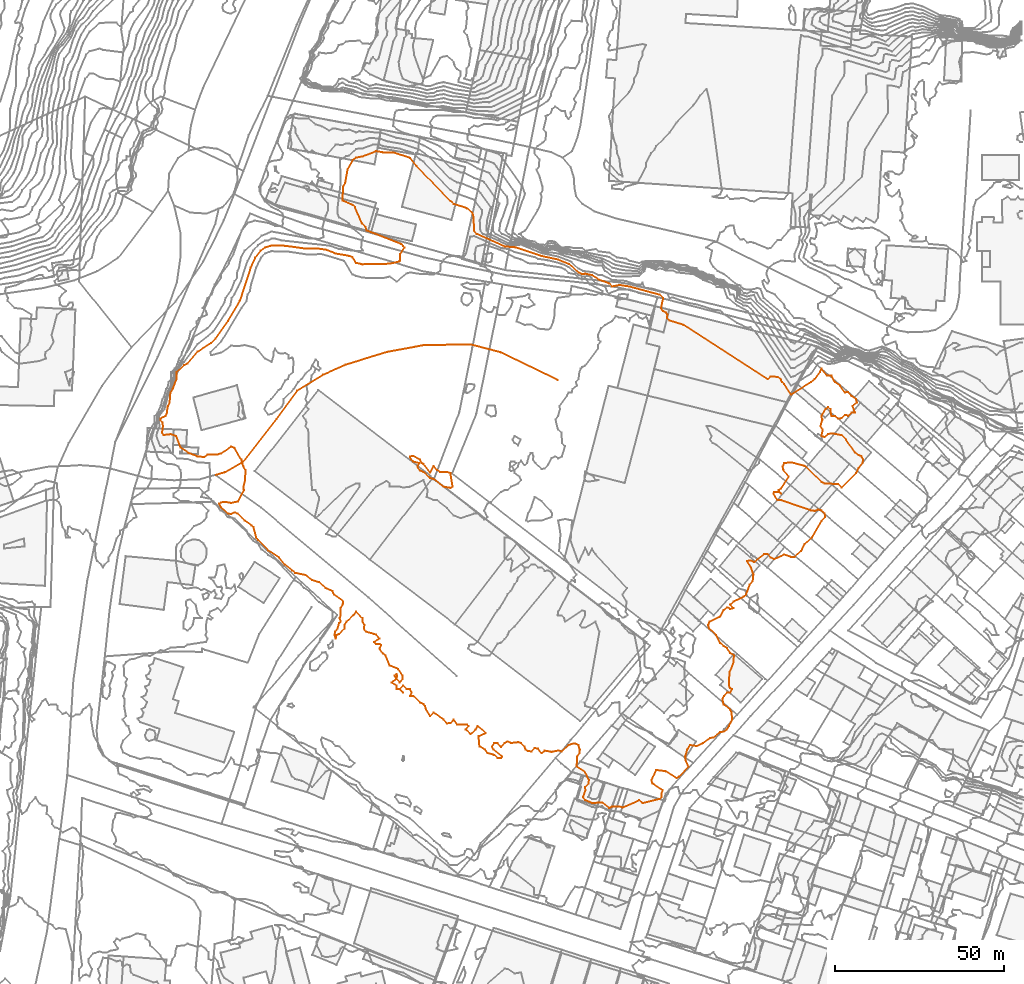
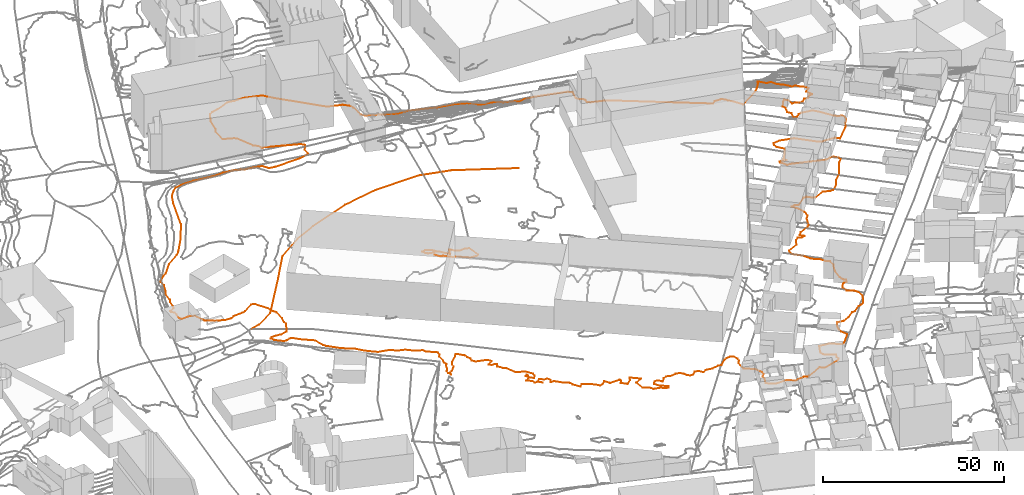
# Not in any storey, part 216 of 419: 3 proxies.
"""IFC2X3 model written with IfcOpenShell, lengths in metres."""

from ifc_helpers import new_model, entity, si_unit, frame, origin_with_axes, place, context, subcontext, project, element, save


model = new_model("IFC2X3")

# Units and contexts
model_context = context("Model", 3, precision=1e-05, world=origin_with_axes())
body_context = subcontext(model_context, "Body", "Model", "MODEL_VIEW")
ifc_project = project(units=[si_unit("AREAUNIT", "SQUARE_METRE"), si_unit("LENGTHUNIT", "METRE")], contexts=[model_context])

# Proxies
proxy_1_placement = place(None, frame((737.2920204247, 298.3976909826, 78.5), z_axis=(0.0, 0.0, 1.0), x_axis=(1.0, 0.0, 0.0)))
element("IfcBuildingElementProxy", 1, at=proxy_1_placement, Name="Route 194", ObjectType="NOTDEFINED", context=body_context, shape_type="GeometricCurveSet", body=[
    entity("IfcGeometricCurveSet", [entity("IfcPolyline", [entity("IfcCartesianPoint", [0.0, 0.0, 0.0]), entity("IfcCartesianPoint", [3.0, 0.7999999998, 0.0]), entity("IfcCartesianPoint", [8.3, 3.9000000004, 0.0]), entity("IfcCartesianPoint", [18.2000000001, 16.5999999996, 0.7]), entity("IfcCartesianPoint", [24.4, 25.0, 0.9]), entity("IfcCartesianPoint", [32.0, 29.7000000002, 1.3]), entity("IfcCartesianPoint", [38.7000000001, 32.7000000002, 1.4]), entity("IfcCartesianPoint", [51.0, 36.5, 1.9]), entity("IfcCartesianPoint", [61.9, 38.5, 1.9]), entity("IfcCartesianPoint", [75.8, 38.7000000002, 1.8]), entity("IfcCartesianPoint", [84.9, 36.2999999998, 1.8]), entity("IfcCartesianPoint", [101.6000000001, 28.2000000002, 1.6])])]),
])
proxy_2_placement = place(None, frame((795.0920704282, 303.8976909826, 81.0), z_axis=(0.0, 0.0, 1.0), x_axis=(1.0, 0.0, 0.0)))
element("IfcBuildingElementProxy", 2, at=proxy_2_placement, Name="Contour 81.0 m", ObjectType="NOTDEFINED", context=body_context, shape_type="GeometricCurveSet", body=[
    entity("IfcGeometricCurveSet", [entity("IfcPolyline", [entity("IfcCartesianPoint", [11.9999499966, -9.3332909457, 0.0]), entity("IfcCartesianPoint", [12.6665318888, -9.0, 0.0]), entity("IfcCartesianPoint", [11.999850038, -5.0, 0.0]), entity("IfcCartesianPoint", [10.9999499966, -4.6665818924, 0.0]), entity("IfcCartesianPoint", [8.9999499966, -4.6665818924, 0.0]), entity("IfcCartesianPoint", [7.9999499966, -4.0000500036, 0.0]), entity("IfcCartesianPoint", [6.9999499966, -2.7999694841, 0.0]), entity("IfcCartesianPoint", [5.9999499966, -4.8333121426, 0.0]), entity("IfcCartesianPoint", [3.9999499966, -2.2000305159, 0.0]), entity("IfcCartesianPoint", [3.4999000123, -2.0, 0.0]), entity("IfcCartesianPoint", [2.9999299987, -1.0, 0.0]), entity("IfcCartesianPoint", [0.9999499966, 0.1666454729, 0.0]), entity("IfcCartesianPoint", [0.0, 0.0, 0.0]), entity("IfcCartesianPoint", [0.3999652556, -1.0, 0.0]), entity("IfcCartesianPoint", [0.9999499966, -1.5454293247, 0.0]), entity("IfcCartesianPoint", [2.7499023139, -2.0, 0.0]), entity("IfcCartesianPoint", [2.2221439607, -3.0, 0.0]), entity("IfcCartesianPoint", [2.9999499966, -4.2353020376, 0.0]), entity("IfcCartesianPoint", [3.9999499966, -4.6363573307, 0.0]), entity("IfcCartesianPoint", [5.9999499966, -6.4444350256, 0.0]), entity("IfcCartesianPoint", [6.9999499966, -6.714332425, 0.0]), entity("IfcCartesianPoint", [9.9999499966, -8.9999875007, 0.0]), entity("IfcCartesianPoint", [11.9999499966, -9.3332909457, 0.0])])]),
])
proxy_3_placement = place(None, frame((721.0920204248, 314.7158740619, 80.0), z_axis=(0.0, 0.0, 1.0), x_axis=(1.0, 0.0, 0.0)))
element("IfcBuildingElementProxy", 3, at=proxy_3_placement, Name="Contour 80.0 m", ObjectType="NOTDEFINED", context=body_context, shape_type="GeometricCurveSet", body=[
    entity("IfcGeometricCurveSet", [entity("IfcPolyline", [entity("IfcCartesianPoint", [137.3846244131, -114.8181830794, 0.0]), entity("IfcCartesianPoint", [137.0, -114.9401406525, 0.0]), entity("IfcCartesianPoint", [136.0, -114.5800904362, 0.0]), entity("IfcCartesianPoint", [134.0, -114.6981879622, 0.0]), entity("IfcCartesianPoint", [133.0, -115.0394225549, 0.0]), entity("IfcCartesianPoint", [131.0, -113.4398052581, 0.0]), entity("IfcCartesianPoint", [128.0, -113.6064176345, 0.0]), entity("IfcCartesianPoint", [126.0, -112.7543560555, 0.0]), entity("IfcCartesianPoint", [125.3230747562, -111.8181830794, 0.0]), entity("IfcCartesianPoint", [126.0499980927, -109.8181830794, 0.0]), entity("IfcCartesianPoint", [125.977781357, -108.8181830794, 0.0]), entity("IfcCartesianPoint", [127.0109913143, -107.8181830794, 0.0]), entity("IfcCartesianPoint", [127.057133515, -106.8181830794, 0.0]), entity("IfcCartesianPoint", [126.0, -104.5000044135, 0.0]), entity("IfcCartesianPoint", [123.4444538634, -102.8181830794, 0.0]), entity("IfcCartesianPoint", [123.59091382, -99.8181830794, 0.0]), entity("IfcCartesianPoint", [124.2500095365, -98.8181830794, 0.0]), entity("IfcCartesianPoint", [124.3809627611, -97.8181830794, 0.0]), entity("IfcCartesianPoint", [124.0, -96.4182135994, 0.0]), entity("IfcCartesianPoint", [123.0, -95.9946483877, 0.0]), entity("IfcCartesianPoint", [122.0, -96.056285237, 0.0]), entity("IfcCartesianPoint", [121.0, -96.4268873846, 0.0]), entity("IfcCartesianPoint", [119.0, -98.2943683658, 0.0]), entity("IfcCartesianPoint", [118.0, -98.0324610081, 0.0]), entity("IfcCartesianPoint", [116.0, -98.4432069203, 0.0]), entity("IfcCartesianPoint", [114.0, -98.0682307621, 0.0]), entity("IfcCartesianPoint", [113.0, -98.8182080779, 0.0]), entity("IfcCartesianPoint", [112.0, -97.4848921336, 0.0]), entity("IfcCartesianPoint", [111.0, -97.3182330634, 0.0]), entity("IfcCartesianPoint", [110.0, -98.3182080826, 0.0]), entity("IfcCartesianPoint", [109.0, -98.2181525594, 0.0]), entity("IfcCartesianPoint", [108.3334181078, -97.8181830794, 0.0]), entity("IfcCartesianPoint", [108.0, -96.8182830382, 0.0]), entity("IfcCartesianPoint", [106.9999000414, -95.8181830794, 0.0]), entity("IfcCartesianPoint", [106.0, -95.5681353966, 0.0]), entity("IfcCartesianPoint", [104.0, -95.818233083, 0.0]), entity("IfcCartesianPoint", [103.0, -95.3182080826, 0.0]), entity("IfcCartesianPoint", [102.0, -95.8182164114, 0.0]), entity("IfcCartesianPoint", [101.0, -97.0182135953, 0.0]), entity("IfcCartesianPoint", [100.0, -95.818233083, 0.0]), entity("IfcCartesianPoint", [99.0, -95.818233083, 0.0]), entity("IfcCartesianPoint", [98.3334181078, -96.8181830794, 0.0]), entity("IfcCartesianPoint", [98.7999694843, -97.8181830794, 0.0]), entity("IfcCartesianPoint", [101.2500476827, -99.8181830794, 0.0]), entity("IfcCartesianPoint", [101.0, -100.3182330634, 0.0]), entity("IfcCartesianPoint", [100.0, -100.2181525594, 0.0]), entity("IfcCartesianPoint", [99.0, -99.3182080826, 0.0]), entity("IfcCartesianPoint", [97.0, -98.8182030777, 0.0]), entity("IfcCartesianPoint", [96.3332909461, -97.8181830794, 0.0]), entity("IfcCartesianPoint", [94.6250238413, -96.8181830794, 0.0]), entity("IfcCartesianPoint", [94.3334181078, -93.8181830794, 0.0]), entity("IfcCartesianPoint", [96.4999500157, -92.8181830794, 0.0]), entity("IfcCartesianPoint", [94.0, -90.8182830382, 0.0]), entity("IfcCartesianPoint", [93.5000499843, -91.8181830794, 0.0]), entity("IfcCartesianPoint", [92.0, -93.1514740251, 0.0]), entity("IfcCartesianPoint", [90.4999500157, -91.8181830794, 0.0]), entity("IfcCartesianPoint", [91.3334181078, -90.8181830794, 0.0]), entity("IfcCartesianPoint", [91.0, -90.3182330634, 0.0]), entity("IfcCartesianPoint", [88.0, -90.3182330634, 0.0]), entity("IfcCartesianPoint", [87.0, -88.818233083, 0.0]), entity("IfcCartesianPoint", [86.0, -89.8182830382, 0.0]), entity("IfcCartesianPoint", [85.0, -90.0182135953, 0.0]), entity("IfcCartesianPoint", [83.9999750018, -88.8181830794, 0.0]), entity("IfcCartesianPoint", [81.0, -86.8182164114, 0.0]), entity("IfcCartesianPoint", [80.0, -87.818233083, 0.0]), entity("IfcCartesianPoint", [78.7499523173, -85.8181830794, 0.0]), entity("IfcCartesianPoint", [78.4999500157, -84.8181830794, 0.0]), entity("IfcCartesianPoint", [78.0, -84.3182330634, 0.0]), entity("IfcCartesianPoint", [77.0, -83.8182164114, 0.0]), entity("IfcCartesianPoint", [75.0, -81.818233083, 0.0]), entity("IfcCartesianPoint", [73.9999000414, -81.8181830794, 0.0]), entity("IfcCartesianPoint", [74.4999500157, -80.8181830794, 0.0]), entity("IfcCartesianPoint", [74.0, -79.8182830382, 0.0]), entity("IfcCartesianPoint", [73.0, -79.8182830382, 0.0]), entity("IfcCartesianPoint", [72.0, -78.8182830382, 0.0]), entity("IfcCartesianPoint", [71.0000999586, -79.8181830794, 0.0]), entity("IfcCartesianPoint", [72.0000999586, -80.8181830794, 0.0]), entity("IfcCartesianPoint", [72.0, -80.8182830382, 0.0]), entity("IfcCartesianPoint", [71.0, -79.8182164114, 0.0]), entity("IfcCartesianPoint", [69.9999666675, -79.8181830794, 0.0]), entity("IfcCartesianPoint", [69.9999499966, -78.8181830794, 0.0]), entity("IfcCartesianPoint", [68.4999500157, -77.8181830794, 0.0]), entity("IfcCartesianPoint", [69.9999000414, -76.8181830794, 0.0]), entity("IfcCartesianPoint", [69.4999500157, -75.8181830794, 0.0]), entity("IfcCartesianPoint", [70.0, -75.3181330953, 0.0]), entity("IfcCartesianPoint", [70.2000305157, -75.8181830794, 0.0]), entity("IfcCartesianPoint", [70.0000166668, -76.8181830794, 0.0]), entity("IfcCartesianPoint", [71.0, -77.8181664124, 0.0]), entity("IfcCartesianPoint", [71.7500238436, -76.8181830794, 0.0]), entity("IfcCartesianPoint", [71.7999694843, -75.8181830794, 0.0]), entity("IfcCartesianPoint", [70.4999500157, -73.8181830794, 0.0]), entity("IfcCartesianPoint", [68.0, -72.8182164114, 0.0]), entity("IfcCartesianPoint", [66.7499523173, -69.8181830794, 0.0]), entity("IfcCartesianPoint", [66.0, -69.3181997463, 0.0]), entity("IfcCartesianPoint", [64.9999499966, -67.8181830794, 0.0]), entity("IfcCartesianPoint", [65.499974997, -66.8181830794, 0.0]), entity("IfcCartesianPoint", [65.0, -66.4182135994, 0.0]), entity("IfcCartesianPoint", [64.0, -66.4847649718, 0.0]), entity("IfcCartesianPoint", [63.3334181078, -65.8181830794, 0.0]), entity("IfcCartesianPoint", [64.9999666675, -64.8181830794, 0.0]), entity("IfcCartesianPoint", [64.0, -63.675294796, 0.0]), entity("IfcCartesianPoint", [60.9999000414, -62.8181830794, 0.0]), entity("IfcCartesianPoint", [60.3334181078, -61.8181830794, 0.0]), entity("IfcCartesianPoint", [60.499974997, -60.8181830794, 0.0]), entity("IfcCartesianPoint", [59.9999000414, -59.8181830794, 0.0]), entity("IfcCartesianPoint", [59.9999000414, -58.8181830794, 0.0]), entity("IfcCartesianPoint", [58.0, -56.818233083, 0.0]), entity("IfcCartesianPoint", [57.3334181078, -57.8181830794, 0.0]), entity("IfcCartesianPoint", [55.1666878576, -59.8181830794, 0.0]), entity("IfcCartesianPoint", [54.5714441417, -60.8181830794, 0.0]), entity("IfcCartesianPoint", [54.5833174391, -61.8181830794, 0.0]), entity("IfcCartesianPoint", [53.0, -63.4848497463, 0.0]), entity("IfcCartesianPoint", [52.2000305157, -63.8181830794, 0.0]), entity("IfcCartesianPoint", [51.9999499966, -64.8181830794, 0.0]), entity("IfcCartesianPoint", [51.6665818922, -63.8181830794, 0.0]), entity("IfcCartesianPoint", [51.8000305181, -62.8181830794, 0.0]), entity("IfcCartesianPoint", [52.4999900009, -61.8181830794, 0.0]), entity("IfcCartesianPoint", [53.0, -60.2181525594, 0.0]), entity("IfcCartesianPoint", [53.499974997, -59.8181830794, 0.0]), entity("IfcCartesianPoint", [53.1666878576, -58.8181830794, 0.0]), entity("IfcCartesianPoint", [53.4583399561, -57.8181830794, 0.0]), entity("IfcCartesianPoint", [53.4285714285, -55.8181830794, 0.0]), entity("IfcCartesianPoint", [54.0666802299, -54.8181830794, 0.0]), entity("IfcCartesianPoint", [54.2353020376, -53.8181830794, 0.0]), entity("IfcCartesianPoint", [51.5454293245, -51.8181830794, 0.0]), entity("IfcCartesianPoint", [51.0, -50.7515028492, 0.0]), entity("IfcCartesianPoint", [48.9090719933, -49.8181830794, 0.0]), entity("IfcCartesianPoint", [47.0, -48.1407613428, 0.0]), entity("IfcCartesianPoint", [45.0, -47.5138410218, 0.0]), entity("IfcCartesianPoint", [43.0, -46.018152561, 0.0]), entity("IfcCartesianPoint", [40.0, -45.3515231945, 0.0]), entity("IfcCartesianPoint", [39.0, -44.6181830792, 0.0]), entity("IfcCartesianPoint", [36.8888935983, -42.8181830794, 0.0]), entity("IfcCartesianPoint", [35.2340432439, -40.8181830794, 0.0]), entity("IfcCartesianPoint", [32.0, -38.6700317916, 0.0]), entity("IfcCartesianPoint", [29.0, -35.6711169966, 0.0]), entity("IfcCartesianPoint", [28.4423105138, -34.8181830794, 0.0]), entity("IfcCartesianPoint", [27.6052642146, -31.8181830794, 0.0]), entity("IfcCartesianPoint", [27.0, -31.2705635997, 0.0]), entity("IfcCartesianPoint", [24.966659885, -29.8181830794, 0.0]), entity("IfcCartesianPoint", [22.8888920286, -27.8181830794, 0.0]), entity("IfcCartesianPoint", [22.0, -27.404389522, 0.0]), entity("IfcCartesianPoint", [21.0, -27.8487942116, 0.0]), entity("IfcCartesianPoint", [20.0, -27.8284945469, 0.0]), entity("IfcCartesianPoint", [18.0, -25.9916513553, 0.0]), entity("IfcCartesianPoint", [17.4285558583, -24.8181830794, 0.0]), entity("IfcCartesianPoint", [18.0, -24.4545404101, 0.0]), entity("IfcCartesianPoint", [19.0, -24.3181795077, 0.0]), entity("IfcCartesianPoint", [21.0, -24.618193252, 0.0]), entity("IfcCartesianPoint", [23.0, -24.151601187, 0.0]), entity("IfcCartesianPoint", [24.7500238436, -20.8181830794, 0.0]), entity("IfcCartesianPoint", [24.6250238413, -19.8181830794, 0.0]), entity("IfcCartesianPoint", [25.1250238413, -17.8181830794, 0.0]), entity("IfcCartesianPoint", [25.2499761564, -14.8181830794, 0.0]), entity("IfcCartesianPoint", [24.6000305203, -13.8181830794, 0.0]), entity("IfcCartesianPoint", [23.9999875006, -11.8181830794, 0.0]), entity("IfcCartesianPoint", [22.0, -8.3182330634, 0.0]), entity("IfcCartesianPoint", [21.0, -7.9293130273, 0.0]), entity("IfcCartesianPoint", [18.0, -9.9181849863, 0.0]), entity("IfcCartesianPoint", [17.0, -10.205938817, 0.0]), entity("IfcCartesianPoint", [14.0, -10.3292964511, 0.0]), entity("IfcCartesianPoint", [13.0, -11.0294531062, 0.0]), entity("IfcCartesianPoint", [11.0, -10.818184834, 0.0]), entity("IfcCartesianPoint", [8.40908618, -9.8181830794, 0.0]), entity("IfcCartesianPoint", [6.0, -8.1974943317, 0.0]), entity("IfcCartesianPoint", [4.7083320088, -4.8181830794, 0.0]), entity("IfcCartesianPoint", [3.0, -4.2288995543, 0.0]), entity("IfcCartesianPoint", [1.0, -4.4848497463, 0.0]), entity("IfcCartesianPoint", [0.466659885, -3.8181830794, 0.0]), entity("IfcCartesianPoint", [0.7653035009, -1.8181830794, 0.0]), entity("IfcCartesianPoint", [0.6428555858, -0.8181830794, 0.0]), entity("IfcCartesianPoint", [0.0, 0.0, 0.0]), entity("IfcCartesianPoint", [0.0, 0.452086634, 0.0]), entity("IfcCartesianPoint", [1.5454524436, 1.1818169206, 0.0]), entity("IfcCartesianPoint", [1.9210552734, 2.1818169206, 0.0]), entity("IfcCartesianPoint", [2.2187492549, 4.1818169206, 0.0]), entity("IfcCartesianPoint", [2.7209329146, 5.1818169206, 0.0]), entity("IfcCartesianPoint", [2.9955347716, 8.1818169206, 0.0]), entity("IfcCartesianPoint", [3.6451608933, 9.1818169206, 0.0]), entity("IfcCartesianPoint", [4.7956206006, 12.1818169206, 0.0]), entity("IfcCartesianPoint", [4.8271607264, 14.1818169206, 0.0]), entity("IfcCartesianPoint", [7.0, 16.2109419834, 0.0]), entity("IfcCartesianPoint", [8.0, 16.7618187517, 0.0]), entity("IfcCartesianPoint", [11.0, 20.2035607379, 0.0]), entity("IfcCartesianPoint", [15.0, 22.8568188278, 0.0]), entity("IfcCartesianPoint", [16.3181786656, 24.1818169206, 0.0]), entity("IfcCartesianPoint", [20.0, 29.2700495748, 0.0]), entity("IfcCartesianPoint", [23.5185153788, 35.1818169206, 0.0]), entity("IfcCartesianPoint", [26.8124955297, 45.1818169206, 0.0]), entity("IfcCartesianPoint", [28.135595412, 48.1818169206, 0.0]), entity("IfcCartesianPoint", [29.7619073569, 50.1818169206, 0.0]), entity("IfcCartesianPoint", [30.9999967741, 51.1818169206, 0.0]), entity("IfcCartesianPoint", [33.0, 51.6723881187, 0.0]), entity("IfcCartesianPoint", [37.0, 51.63181247, 0.0]), entity("IfcCartesianPoint", [43.0, 50.7719812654, 0.0]), entity("IfcCartesianPoint", [46.0, 50.8818156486, 0.0]), entity("IfcCartesianPoint", [49.0, 50.4841447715, 0.0]), entity("IfcCartesianPoint", [52.0, 49.331811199, 0.0]), entity("IfcCartesianPoint", [56.0, 48.6363598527, 0.0]), entity("IfcCartesianPoint", [57.057133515, 48.1818169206, 0.0]), entity("IfcCartesianPoint", [58.0, 46.5418022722, 0.0]), entity("IfcCartesianPoint", [60.0, 46.1447725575, 0.0]), entity("IfcCartesianPoint", [68.0, 46.3122488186, 0.0]), entity("IfcCartesianPoint", [71.0, 47.0389286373, 0.0]), entity("IfcCartesianPoint", [71.1000228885, 49.1818169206, 0.0]), entity("IfcCartesianPoint", [72.3846244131, 51.1818169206, 0.0]), entity("IfcCartesianPoint", [72.0, 51.5984994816, 0.0]), entity("IfcCartesianPoint", [71.3636426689, 52.1818169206, 0.0]), entity("IfcCartesianPoint", [61.1590893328, 56.1818169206, 0.0]), entity("IfcCartesianPoint", [60.8695681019, 57.1818169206, 0.0]), entity("IfcCartesianPoint", [59.7857220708, 58.1818169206, 0.0]), entity("IfcCartesianPoint", [57.6666497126, 63.1818169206, 0.0]), entity("IfcCartesianPoint", [57.0, 63.7700495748, 0.0]), entity("IfcCartesianPoint", [54.0, 65.0151573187, 0.0]), entity("IfcCartesianPoint", [54.2031209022, 69.1818169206, 0.0]), entity("IfcCartesianPoint", [54.7820532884, 70.1818169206, 0.0]), entity("IfcCartesianPoint", [55.4883696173, 74.1818169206, 0.0]), entity("IfcCartesianPoint", [57.0, 77.0984871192, 0.0]), entity("IfcCartesianPoint", [58.0, 77.7770576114, 0.0]), entity("IfcCartesianPoint", [60.0, 78.1585561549, 0.0]), entity("IfcCartesianPoint", [64.0, 79.7045489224, 0.0]), entity("IfcCartesianPoint", [66.0, 79.3454479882, 0.0]), entity("IfcCartesianPoint", [69.0, 79.3224363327, 0.0]), entity("IfcCartesianPoint", [74.0, 77.7272739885, 0.0]), entity("IfcCartesianPoint", [76.0, 75.3100300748, 0.0]), entity("IfcCartesianPoint", [86.0, 64.9151468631, 0.0]), entity("IfcCartesianPoint", [87.0, 64.0438831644, 0.0]), entity("IfcCartesianPoint", [91.0, 62.7484861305, 0.0]), entity("IfcCartesianPoint", [92.6400146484, 61.1818169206, 0.0]), entity("IfcCartesianPoint", [92.8936108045, 60.1818169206, 0.0]), entity("IfcCartesianPoint", [93.0000018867, 56.1818169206, 0.0]), entity("IfcCartesianPoint", [93.8113231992, 55.1818169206, 0.0]), entity("IfcCartesianPoint", [102.0, 51.4489918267, 0.0]), entity("IfcCartesianPoint", [105.3823489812, 51.1818169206, 0.0]), entity("IfcCartesianPoint", [113.0, 48.5962302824, 0.0]), entity("IfcCartesianPoint", [118.0, 47.505889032, 0.0]), entity("IfcCartesianPoint", [121.1851820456, 46.1818169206, 0.0]), entity("IfcCartesianPoint", [124.0, 43.7234818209, 0.0]), entity("IfcCartesianPoint", [125.0, 43.2430391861, 0.0]), entity("IfcCartesianPoint", [126.0, 43.3473330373, 0.0]), entity("IfcCartesianPoint", [128.0, 42.9115440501, 0.0]), entity("IfcCartesianPoint", [130.0, 41.5920735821, 0.0]), entity("IfcCartesianPoint", [133.0, 40.4982722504, 0.0]), entity("IfcCartesianPoint", [134.0, 39.5786440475, 0.0]), entity("IfcCartesianPoint", [136.0, 40.0107666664, 0.0]), entity("IfcCartesianPoint", [139.0, 39.5677841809, 0.0]), entity("IfcCartesianPoint", [148.0, 37.1212098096, 0.0]), entity("IfcCartesianPoint", [149.1132032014, 36.1818169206, 0.0]), entity("IfcCartesianPoint", [148.4736884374, 33.1818169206, 0.0]), entity("IfcCartesianPoint", [149.0, 32.3122488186, 0.0]), entity("IfcCartesianPoint", [150.0, 31.7971925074, 0.0]), entity("IfcCartesianPoint", [150.3636426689, 31.1818169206, 0.0]), entity("IfcCartesianPoint", [150.1999898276, 30.1818169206, 0.0]), entity("IfcCartesianPoint", [151.0, 29.4759424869, 0.0]), entity("IfcCartesianPoint", [155.1428882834, 28.1818169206, 0.0]), entity("IfcCartesianPoint", [180.0, 12.0706869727, 0.0]), entity("IfcCartesianPoint", [181.0, 12.8484835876, 0.0]), entity("IfcCartesianPoint", [183.0, 12.7532610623, 0.0]), entity("IfcCartesianPoint", [184.0, 12.0151714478, 0.0]), entity("IfcCartesianPoint", [184.3030239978, 11.1818169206, 0.0]), entity("IfcCartesianPoint", [185.0, 10.6068107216, 0.0]), entity("IfcCartesianPoint", [187.0, 7.5502390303, 0.0]), entity("IfcCartesianPoint", [193.0, 11.2793792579, 0.0]), entity("IfcCartesianPoint", [194.0400085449, 12.1818169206, 0.0]), entity("IfcCartesianPoint", [195.5666692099, 14.1818169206, 0.0]), entity("IfcCartesianPoint", [196.0, 15.1818214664, 0.0]), entity("IfcCartesianPoint", [197.714332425, 13.1818169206, 0.0]), entity("IfcCartesianPoint", [199.0, 13.1048803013, 0.0]), entity("IfcCartesianPoint", [200.0, 11.2818398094, 0.0]), entity("IfcCartesianPoint", [201.5000124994, 10.1818169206, 0.0]), entity("IfcCartesianPoint", [203.0, 8.1818294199, 0.0]), entity("IfcCartesianPoint", [204.0, 8.2484971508, 0.0]), entity("IfcCartesianPoint", [205.0, 7.0817940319, 0.0]), entity("IfcCartesianPoint", [206.2499761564, 6.1818169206, 0.0]), entity("IfcCartesianPoint", [206.6000305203, 5.1818169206, 0.0]), entity("IfcCartesianPoint", [205.2000305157, 4.1818169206, 0.0]), entity("IfcCartesianPoint", [206.0000999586, 2.1818169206, 0.0]), entity("IfcCartesianPoint", [205.0, 2.1817169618, 0.0]), entity("IfcCartesianPoint", [204.0, 1.181766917, 0.0]), entity("IfcCartesianPoint", [203.0, 1.5152350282, 0.0]), entity("IfcCartesianPoint", [202.0, 0.5152350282, 0.0]), entity("IfcCartesianPoint", [201.0, 0.3818474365, 0.0]), entity("IfcCartesianPoint", [200.0, 1.1817835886, 0.0]), entity("IfcCartesianPoint", [198.9999000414, 1.1818169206, 0.0]), entity("IfcCartesianPoint", [198.6667090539, 3.1818169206, 0.0]), entity("IfcCartesianPoint", [198.0, 3.8485259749, 0.0]), entity("IfcCartesianPoint", [197.2000305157, 3.1818169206, 0.0]), entity("IfcCartesianPoint", [196.0000333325, 1.1818169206, 0.0]), entity("IfcCartesianPoint", [196.3334181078, 0.1818169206, 0.0]), entity("IfcCartesianPoint", [195.714332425, -1.8181830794, 0.0]), entity("IfcCartesianPoint", [196.4285558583, -2.8181830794, 0.0]), entity("IfcCartesianPoint", [196.0000249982, -4.8181830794, 0.0]), entity("IfcCartesianPoint", [197.0, -5.0404100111, 0.0]), entity("IfcCartesianPoint", [198.0, -4.2181830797, 0.0]), entity("IfcCartesianPoint", [199.0, -3.9781867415, 0.0]), entity("IfcCartesianPoint", [202.0, -4.5240575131, 0.0]), entity("IfcCartesianPoint", [203.2999923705, -5.8181830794, 0.0]), entity("IfcCartesianPoint", [206.0, -9.675294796, 0.0]), entity("IfcCartesianPoint", [207.0, -10.4848921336, 0.0]), entity("IfcCartesianPoint", [208.0000142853, -10.8181830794, 0.0]), entity("IfcCartesianPoint", [208.4285558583, -11.8181830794, 0.0]), entity("IfcCartesianPoint", [208.1538235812, -12.8181830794, 0.0]), entity("IfcCartesianPoint", [207.0, -14.2727537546, 0.0]), entity("IfcCartesianPoint", [206.2903130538, -15.8181830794, 0.0]), entity("IfcCartesianPoint", [202.0, -20.0681592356, 0.0]), entity("IfcCartesianPoint", [201.0, -19.0682307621, 0.0]), entity("IfcCartesianPoint", [197.0, -18.8182164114, 0.0]), entity("IfcCartesianPoint", [196.0, -18.4182135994, 0.0]), entity("IfcCartesianPoint", [191.0, -13.6182135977, 0.0]), entity("IfcCartesianPoint", [187.0, -12.5682069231, 0.0]), entity("IfcCartesianPoint", [185.0, -12.8182030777, 0.0]), entity("IfcCartesianPoint", [184.5454293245, -13.8181830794, 0.0]), entity("IfcCartesianPoint", [184.7499523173, -14.8181830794, 0.0]), entity("IfcCartesianPoint", [186.3332909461, -16.8181830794, 0.0]), entity("IfcCartesianPoint", [184.0, -20.3182080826, 0.0]), entity("IfcCartesianPoint", [183.3334181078, -20.8181830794, 0.0]), entity("IfcCartesianPoint", [184.0000999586, -21.8181830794, 0.0]), entity("IfcCartesianPoint", [183.0, -21.3182330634, 0.0]), entity("IfcCartesianPoint", [182.0, -21.3182080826, 0.0]), entity("IfcCartesianPoint", [181.8182007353, -21.8181830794, 0.0]), entity("IfcCartesianPoint", [183.0, -23.8181330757, 0.0]), entity("IfcCartesianPoint", [184.0, -23.8181497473, 0.0]), entity("IfcCartesianPoint", [193.0000999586, -26.8181830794, 0.0]), entity("IfcCartesianPoint", [194.0, -26.9610713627, 0.0]), entity("IfcCartesianPoint", [195.0, -26.6181525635, 0.0]), entity("IfcCartesianPoint", [196.0, -26.8181739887, 0.0]), entity("IfcCartesianPoint", [197.0000111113, -27.8181830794, 0.0]), entity("IfcCartesianPoint", [197.1428882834, -28.8181830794, 0.0]), entity("IfcCartesianPoint", [196.0, -29.9848709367, 0.0]), entity("IfcCartesianPoint", [193.1817992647, -34.8181830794, 0.0]), entity("IfcCartesianPoint", [191.0000111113, -36.8181830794, 0.0]), entity("IfcCartesianPoint", [190.0, -38.8182030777, 0.0]), entity("IfcCartesianPoint", [188.0, -40.5959891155, 0.0]), entity("IfcCartesianPoint", [187.0, -40.5959891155, 0.0]), entity("IfcCartesianPoint", [185.0, -39.9091110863, 0.0]), entity("IfcCartesianPoint", [182.0, -41.2848429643, 0.0]), entity("IfcCartesianPoint", [180.9999750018, -40.8181830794, 0.0]), entity("IfcCartesianPoint", [180.0, -39.8182080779, 0.0]), entity("IfcCartesianPoint", [179.0, -39.818233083, 0.0]), entity("IfcCartesianPoint", [176.0, -42.151601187, 0.0]), entity("IfcCartesianPoint", [175.0, -41.651495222, 0.0]), entity("IfcCartesianPoint", [174.0000999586, -41.8181830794, 0.0]), entity("IfcCartesianPoint", [175.1666878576, -43.8181830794, 0.0]), entity("IfcCartesianPoint", [175.8333121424, -45.8181830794, 0.0]), entity("IfcCartesianPoint", [175.8000305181, -46.8181830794, 0.0]), entity("IfcCartesianPoint", [175.6153755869, -47.8181830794, 0.0]), entity("IfcCartesianPoint", [174.7618978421, -48.8181830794, 0.0]), entity("IfcCartesianPoint", [173.6363573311, -51.8181830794, 0.0]), entity("IfcCartesianPoint", [173.0, -52.4015005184, 0.0]), entity("IfcCartesianPoint", [170.0000199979, -53.8181830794, 0.0]), entity("IfcCartesianPoint", [169.0000199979, -54.8181830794, 0.0]), entity("IfcCartesianPoint", [170.0, -55.81819217, 0.0]), entity("IfcCartesianPoint", [169.0, -56.0682307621, 0.0]), entity("IfcCartesianPoint", [168.0, -55.5681353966, 0.0]), entity("IfcCartesianPoint", [167.0, -56.4182135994, 0.0]), entity("IfcCartesianPoint", [166.0, -58.3182080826, 0.0]), entity("IfcCartesianPoint", [162.8182007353, -59.8181830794, 0.0]), entity("IfcCartesianPoint", [162.4615294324, -60.8181830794, 0.0]), entity("IfcCartesianPoint", [162.736829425, -61.8181830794, 0.0]), entity("IfcCartesianPoint", [164.7857220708, -63.8181830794, 0.0]), entity("IfcCartesianPoint", [166.0, -66.1039051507, 0.0]), entity("IfcCartesianPoint", [167.0, -67.1039051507, 0.0]), entity("IfcCartesianPoint", [168.0, -67.6098417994, 0.0]), entity("IfcCartesianPoint", [169.0, -69.1660120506, 0.0]), entity("IfcCartesianPoint", [170.0714441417, -69.8181830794, 0.0]), entity("IfcCartesianPoint", [170.0000090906, -71.8181830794, 0.0]), entity("IfcCartesianPoint", [168.8000305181, -74.8181830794, 0.0]), entity("IfcCartesianPoint", [168.5714441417, -77.8181830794, 0.0]), entity("IfcCartesianPoint", [168.5714441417, -78.8181830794, 0.0]), entity("IfcCartesianPoint", [169.0, -79.5681353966, 0.0]), entity("IfcCartesianPoint", [169.5000499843, -79.8181830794, 0.0]), entity("IfcCartesianPoint", [169.0000500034, -80.8181830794, 0.0]), entity("IfcCartesianPoint", [168.0, -80.8181955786, 0.0]), entity("IfcCartesianPoint", [167.1111299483, -81.8181830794, 0.0]), entity("IfcCartesianPoint", [166.6666666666, -82.8181830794, 0.0]), entity("IfcCartesianPoint", [167.0, -84.4015005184, 0.0]), entity("IfcCartesianPoint", [168.9444326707, -85.8181830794, 0.0]), entity("IfcCartesianPoint", [169.4074032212, -86.8181830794, 0.0]), entity("IfcCartesianPoint", [169.5217434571, -88.8181830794, 0.0]), entity("IfcCartesianPoint", [168.5769242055, -90.8181830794, 0.0]), entity("IfcCartesianPoint", [167.9473578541, -91.8181830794, 0.0]), entity("IfcCartesianPoint", [167.0, -92.438871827, 0.0]), entity("IfcCartesianPoint", [166.0, -92.5610495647, 0.0]), entity("IfcCartesianPoint", [164.0, -94.1407613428, 0.0]), entity("IfcCartesianPoint", [163.0, -94.3181864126, 0.0]), entity("IfcCartesianPoint", [161.0, -95.7655409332, 0.0]), entity("IfcCartesianPoint", [159.0, -96.7206207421, 0.0]), entity("IfcCartesianPoint", [157.0, -96.4181678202, 0.0]), entity("IfcCartesianPoint", [156.1923178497, -97.8181830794, 0.0]), entity("IfcCartesianPoint", [155.6578994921, -99.8181830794, 0.0]), entity("IfcCartesianPoint", [155.7555525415, -100.8181830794, 0.0]), entity("IfcCartesianPoint", [156.5625014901, -102.8181830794, 0.0]), entity("IfcCartesianPoint", [153.8000030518, -105.8181830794, 0.0]), entity("IfcCartesianPoint", [153.0, -106.2529682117, 0.0]), entity("IfcCartesianPoint", [150.0, -104.2181854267, 0.0]), entity("IfcCartesianPoint", [147.0, -103.8182080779, 0.0]), entity("IfcCartesianPoint", [145.6363573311, -106.8181830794, 0.0]), entity("IfcCartesianPoint", [145.8888700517, -107.8181830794, 0.0]), entity("IfcCartesianPoint", [148.9583253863, -109.8181830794, 0.0]), entity("IfcCartesianPoint", [148.5636366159, -110.8181830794, 0.0]), entity("IfcCartesianPoint", [148.5714285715, -111.8181830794, 0.0]), entity("IfcCartesianPoint", [148.0, -112.3566457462, 0.0]), entity("IfcCartesianPoint", [143.0, -113.6306860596, 0.0]), entity("IfcCartesianPoint", [142.0, -112.7848429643, 0.0]), entity("IfcCartesianPoint", [137.3846244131, -114.8181830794, 0.0])])]),
])

save(model, "model.ifc")
